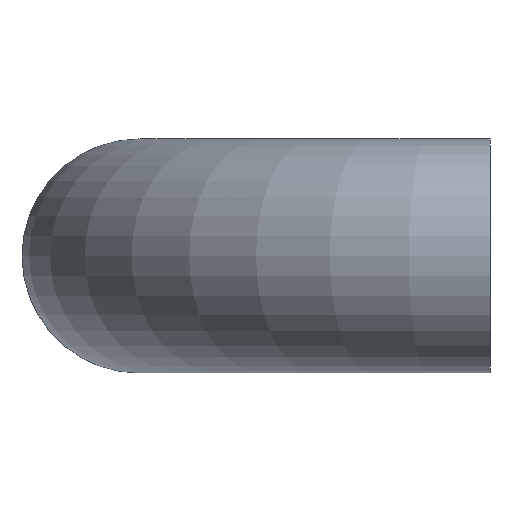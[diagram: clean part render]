
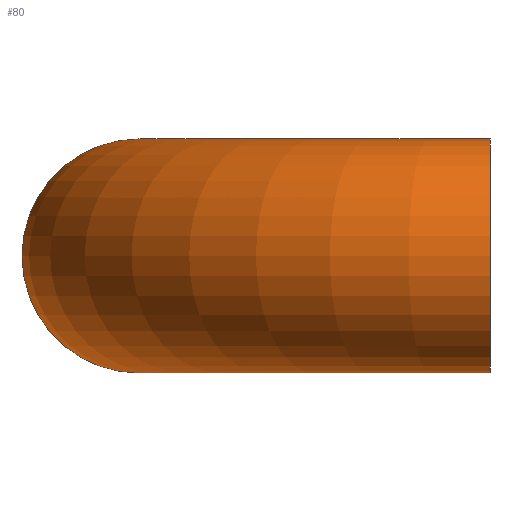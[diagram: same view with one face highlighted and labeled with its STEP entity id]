
A CAD part, left-side view. The second image highlights one B-rep face of the part: STEP entity #80.
In plain terms, the highlighted toroidal (fillet/blend) face has major radius 609.6 mm and minor radius 203.2 mm.
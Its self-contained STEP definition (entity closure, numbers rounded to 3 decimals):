
#20=FACE_OUTER_BOUND('',#24,.T.);
#24=EDGE_LOOP('',(#63,#64,#65,#66,#67,#68));
#34=CIRCLE('',#110,203.2);
#35=CIRCLE('',#111,203.2);
#36=CIRCLE('',#112,406.4);
#37=CIRCLE('',#113,203.2);
#38=CIRCLE('',#114,203.2);
#43=VERTEX_POINT('',#159);
#44=VERTEX_POINT('',#160);
#45=VERTEX_POINT('',#163);
#46=VERTEX_POINT('',#165);
#52=EDGE_CURVE('',#43,#44,#34,.T.);
#53=EDGE_CURVE('',#44,#43,#35,.T.);
#54=EDGE_CURVE('',#44,#45,#36,.T.);
#55=EDGE_CURVE('',#45,#46,#37,.T.);
#56=EDGE_CURVE('',#46,#45,#38,.T.);
#63=ORIENTED_EDGE('',*,*,#52,.F.);
#64=ORIENTED_EDGE('',*,*,#53,.F.);
#65=ORIENTED_EDGE('',*,*,#54,.T.);
#66=ORIENTED_EDGE('',*,*,#55,.T.);
#67=ORIENTED_EDGE('',*,*,#56,.T.);
#68=ORIENTED_EDGE('',*,*,#54,.F.);
#78=TOROIDAL_SURFACE('',#109,609.6,203.2);
#80=ADVANCED_FACE('',(#20),#78,.T.);
#109=AXIS2_PLACEMENT_3D('',#158,#131,#132);
#110=AXIS2_PLACEMENT_3D('',#161,#133,#134);
#111=AXIS2_PLACEMENT_3D('',#162,#135,#136);
#112=AXIS2_PLACEMENT_3D('',#164,#137,#138);
#113=AXIS2_PLACEMENT_3D('',#166,#139,#140);
#114=AXIS2_PLACEMENT_3D('',#167,#141,#142);
#131=DIRECTION('center_axis',(0.,0.,-1.));
#132=DIRECTION('ref_axis',(-1.,0.,0.));
#133=DIRECTION('center_axis',(0.,-1.,0.));
#134=DIRECTION('ref_axis',(1.,0.,0.));
#135=DIRECTION('center_axis',(0.,-1.,0.));
#136=DIRECTION('ref_axis',(1.,0.,0.));
#137=DIRECTION('center_axis',(0.,0.,1.));
#138=DIRECTION('ref_axis',(-1.,0.,0.));
#139=DIRECTION('center_axis',(0.,1.,0.));
#140=DIRECTION('ref_axis',(-1.,0.,0.));
#141=DIRECTION('center_axis',(0.,1.,0.));
#142=DIRECTION('ref_axis',(-1.,0.,0.));
#158=CARTESIAN_POINT('Origin',(0.,0.,0.));
#159=CARTESIAN_POINT('',(812.8,0.,0.));
#160=CARTESIAN_POINT('',(406.4,0.,0.));
#161=CARTESIAN_POINT('Origin',(609.6,0.,0.));
#162=CARTESIAN_POINT('Origin',(609.6,0.,0.));
#163=CARTESIAN_POINT('',(-406.4,0.,0.));
#164=CARTESIAN_POINT('Origin',(0.,0.,0.));
#165=CARTESIAN_POINT('',(-812.8,0.,0.));
#166=CARTESIAN_POINT('Origin',(-609.6,0.,0.));
#167=CARTESIAN_POINT('Origin',(-609.6,0.,0.));
